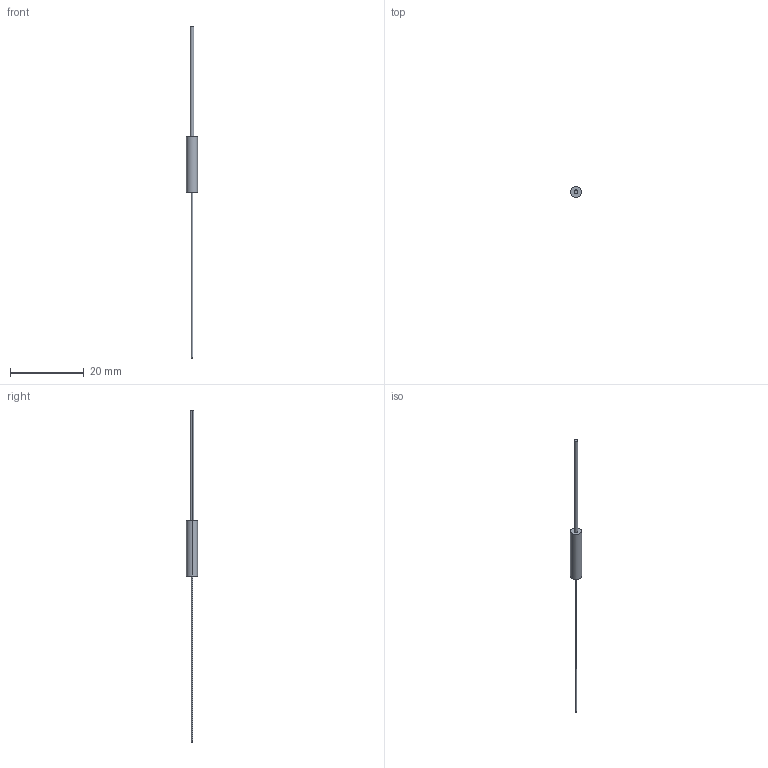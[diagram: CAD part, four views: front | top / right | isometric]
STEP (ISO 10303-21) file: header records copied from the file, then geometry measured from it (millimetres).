
FILE_DESCRIPTION (( 'STEP AP203' ), '1' );
FILE_NAME ('FQ-76F_T.STEP', '2020-11-03T07:12:27', ( '' ), ( '' ), 'SwSTEP 2.0', 'SolidWorks 2020', '' );
FILE_SCHEMA (( 'CONFIG_CONTROL_DESIGN' ));
Length unit declared in the file: millimetre
Products named in the file (1): FQ-76F_T
Bounding box: 3 x 3 x 90 mm (x, y, z)
Volume: 135.2 mm3; surface area: 306.5 mm2
Topology: 1 solids, 1 shells, 16 faces, 30 edges, 20 vertices
Faces by surface type: cylinder 10, plane 6
Entity records: 491 total; most frequent: DIRECTION 84, CARTESIAN_POINT 67, ORIENTED_EDGE 60, AXIS2_PLACEMENT_3D 37, EDGE_CURVE 30, EDGE_LOOP 20, CIRCLE 20, VERTEX_POINT 20
